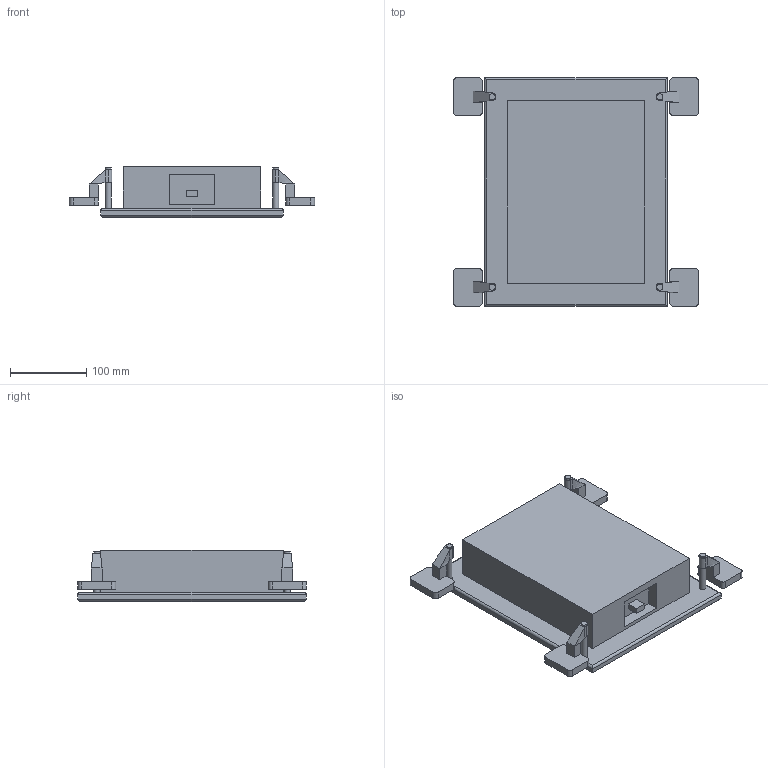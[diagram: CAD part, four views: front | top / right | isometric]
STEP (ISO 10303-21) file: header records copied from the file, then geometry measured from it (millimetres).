
FILE_DESCRIPTION(/* description */ (''),/* implementation_level */ '2;1');
FILE_NAME(/* name */ 'LB DE Plan 200.stp',/* time_stamp */ '2024-09-27T13:35:41+02:00',/* author */ ('d.streicher'),/* organization */ (''),/* preprocessor_version */ 'ST-DEVELOPER v20',/* originating_system */ 'Autodesk Inventor 2025',/* authorisation */ '');
FILE_SCHEMA (('AUTOMOTIVE_DESIGN { 1 0 10303 214 3 1 1 }'));
Length unit declared in the file: millimetre
Products named in the file (1): DE Plan 200
Bounding box: 322 x 300 x 67 mm (x, y, z)
Volume: 3302018 mm3; surface area: 238498.5 mm2
Topology: 1 solids, 1 shells, 147 faces, 370 edges, 268 vertices
Faces by surface type: plane 103, cylinder 36, bspline 8
Full cylindrical faces by diameter (mm): 8 x12
Entity records: 4585 total; most frequent: CARTESIAN_POINT 880, DIRECTION 700, ORIENTED_EDGE 688, EDGE_CURVE 344, LINE 272, VECTOR 272, AXIS2_PLACEMENT_3D 214, VERTEX_POINT 212
